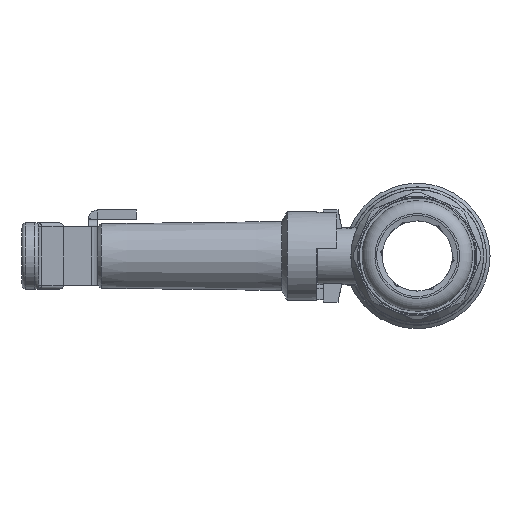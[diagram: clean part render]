
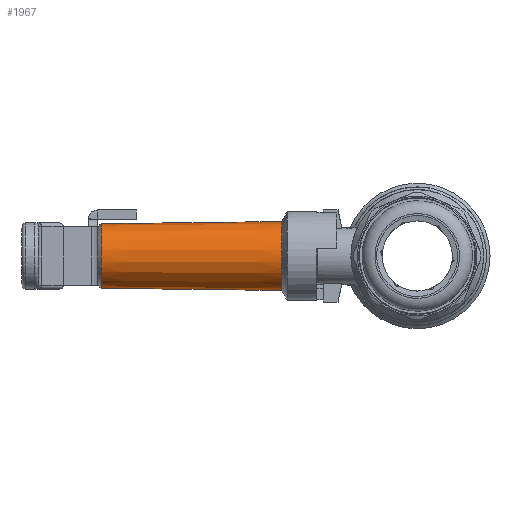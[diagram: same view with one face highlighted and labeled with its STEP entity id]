
A CAD part, left-side view. The second image highlights one B-rep face of the part: STEP entity #1967.
In plain terms, the highlighted conical face has half-angle 0.688 degrees and reference radius 9.291 mm.
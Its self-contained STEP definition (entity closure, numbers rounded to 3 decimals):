
#1936=CARTESIAN_POINT('',(0.0,85.788,-8.762));
#1937=VERTEX_POINT('',#1936);
#1938=CARTESIAN_POINT('',(0.,85.788,0.));
#1939=DIRECTION('',(0.0,-1.0,0.0));
#1940=DIRECTION('',(0.0,0.0,-1.0));
#1941=AXIS2_PLACEMENT_3D('',#1938,#1939,#1940);
#1942=CIRCLE('',#1941,8.762);
#1943=EDGE_CURVE('',#1937,#1937,#1942,.T.);
#1948=CARTESIAN_POINT('',(0.,41.702,0.0));
#1949=DIRECTION('',(0.0,-1.0,0.0));
#1950=DIRECTION('',(-1.0,0.0,0.0));
#1951=AXIS2_PLACEMENT_3D('',#1948,#1949,#1950);
#1952=CONICAL_SURFACE('',#1951,9.291,0.688);
#1953=ORIENTED_EDGE('',*,*,#1943,.T.);
#1954=EDGE_LOOP('',(#1953));
#1955=FACE_OUTER_BOUND('',#1954,.T.);
#1956=CARTESIAN_POINT('',(0.0,36.804,-9.35));
#1957=VERTEX_POINT('',#1956);
#1958=CARTESIAN_POINT('',(0.,36.804,0.));
#1959=DIRECTION('',(0.0,-1.0,0.0));
#1960=DIRECTION('',(0.0,0.0,-1.0));
#1961=AXIS2_PLACEMENT_3D('',#1958,#1959,#1960);
#1962=CIRCLE('',#1961,9.35);
#1963=EDGE_CURVE('',#1957,#1957,#1962,.T.);
#1964=ORIENTED_EDGE('',*,*,#1963,.F.);
#1965=EDGE_LOOP('',(#1964));
#1966=FACE_BOUND('',#1965,.T.);
#1967=ADVANCED_FACE('',(#1955,#1966),#1952,.T.);
